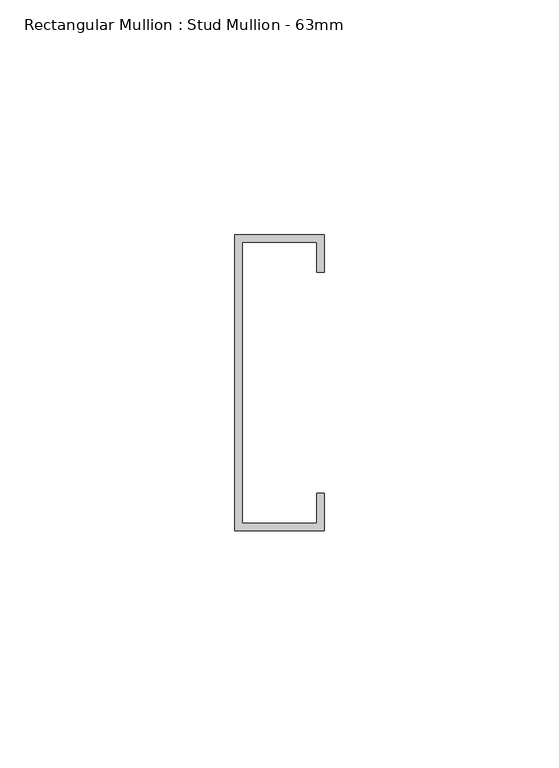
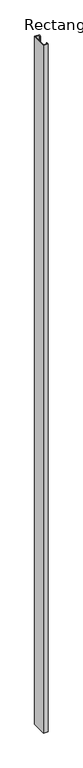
"""IFC4 building model written with IfcOpenShell, lengths in millimetres: member geometry, Rectangular Mullion : Stud Mullion - 63mm."""

from ifc_helpers import new_model, si_unit, frame, origin, place, context, project, spatial, polyline, outline, extrude, source, transform, mapped, element, save


def rectangular_mullion_stud_mullion_63mm_08592bac(model_context):
    return source(origin(), model_context, "Body", "SweptSolid", [
        extrude(outline(polyline([(9.5, 23.5), (7.9, 23.5), (7.9, 29.9), (-7.9, 29.9), (-7.9, -29.9), (7.9, -29.9), (7.9, -23.5), (9.5, -23.5), (9.5, -31.5), (-9.5, -31.5), (-9.5, 31.5), (9.5, 31.5), (9.5, 23.5)])), frame((0.0, 0.0, -3000.0), z_axis=(0.0, 0.0, 1.0), x_axis=(1.0, 0.0, 0.0)), (0.0, 0.0, 1.0), 3000.0),
    ])


if __name__ == "__main__":
    model = new_model("IFC4")
    model_context = context("Model", 3, world=origin())
    ifc_project = project(units=[si_unit("LENGTHUNIT", "METRE", prefix="MILLI")], contexts=[model_context])
    site = spatial("IfcSite", under=ifc_project)
    building = spatial("IfcBuilding", under=site)
    placement = place(None, origin())
    rectangular_mullion_stud_mullion_63mm_shape = rectangular_mullion_stud_mullion_63mm_08592bac(model_context)
    element("IfcMember", 1, ObjectType="Rectangular Mullion : Stud Mullion - 63mm", at=placement, inside=building, context=model_context, shape_type="MappedRepresentation", body=[
        mapped(rectangular_mullion_stud_mullion_63mm_shape, transform((0.0, 0.0, 0.0), x_axis=(1.0, 0.0, 0.0), y_axis=(0.0, 1.0, 0.0), z_axis=(0.0, 0.0, 1.0))),
    ])
    save(model, "model.ifc")
